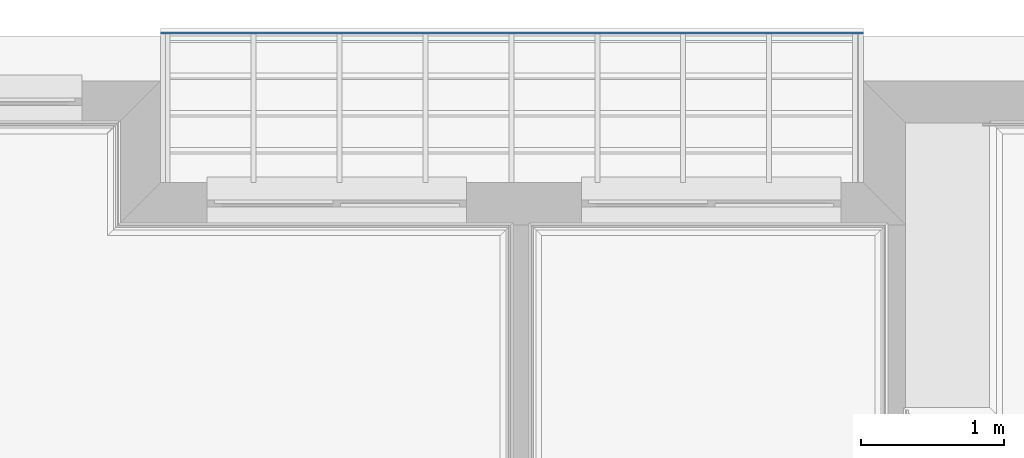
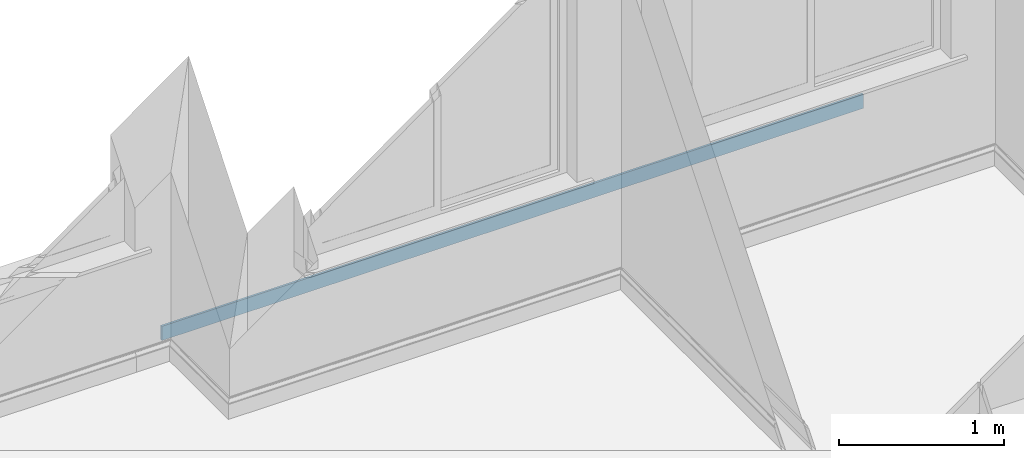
# One storey, part 5 of 18: 1 discrete accessory.
"""IFC2X3 building model written with IfcOpenShell, lengths in millimetres."""

import ifcopenshell
import ifcopenshell.guid

model = None  # the IFC model being written
_history = None  # IfcOwnerHistory: only IFC2X3 demands one
_inside = {}  # id of a spatial element -> (the spatial element, [elements in it])
_under = {}  # id of a project, library or spatial element -> (it, [spatial elements below it])
_declared = {}  # id of a project -> (the project, [libraries it declares])
_typed = {}  # id of a type object -> (the type object, [elements of that type])
_made_of = {}  # id of a material, layer set ... -> (it, [elements and type objects made of it])


def new_model(schema):
    """Start an empty IFC model of exactly this schema.

    Asked for "IFC4X3", IfcOpenShell would pick the latest addendum, in which some entities
    have other attributes; the version numbers below select the first issue.
    IFC2X3 requires an IfcOwnerHistory on every rooted entity: one is made here for all.
    """
    global model, _history
    if schema == "IFC4X3":
        model = ifcopenshell.file(schema_version=(4, 3, 0, 0))
    else:
        model = ifcopenshell.file(schema=schema)
    _inside.clear()
    _under.clear()
    _declared.clear()
    _typed.clear()
    _made_of.clear()
    _history = None
    if model.schema == "IFC2X3":
        org = make("IfcOrganization", Name="unknown")
        user = make(
            "IfcPersonAndOrganization",
            ThePerson=make("IfcPerson", FamilyName="unknown"),
            TheOrganization=org,
        )
        app = make(
            "IfcApplication",
            ApplicationDeveloper=org,
            Version="unknown",
            ApplicationFullName="unknown",
            ApplicationIdentifier="unknown",
        )
        _history = make(
            "IfcOwnerHistory",
            OwningUser=user,
            OwningApplication=app,
            ChangeAction="ADDED",
            CreationDate=0,
        )
    return model


def make(cls, **values):
    """One entity of the class cls with the attributes given. An attribute that is None is left unset."""
    return model.create_entity(
        cls, **{name: value for name, value in values.items() if value is not None}
    )


def entity(cls, *values):
    """Any entity or typed value of the class cls, its attributes in the order of the schema. None: left unset."""
    e = model.create_entity(cls)
    for i, value in enumerate(values):
        if value is not None:
            e[i] = value
    return e


def rooted(cls, **values):
    """An entity with a GlobalId (a new one), such as an element, a storey or a relation."""
    return make(cls, GlobalId=ifcopenshell.guid.new(), OwnerHistory=_history, **values)


def si_unit(unit_type, name, prefix=None):
    """IfcSIUnit, for example si_unit("LENGTHUNIT", "METRE", prefix="MILLI")."""
    return make("IfcSIUnit", UnitType=unit_type, Prefix=prefix, Name=name)


def converted_unit(unit_type, name, factor, base, dimensions=None, offset=None):
    """IfcConversionBasedUnit, such as the inch: factor (a typed value) times the base unit."""
    return make(
        "IfcConversionBasedUnit"
        if offset is None
        else "IfcConversionBasedUnitWithOffset",
        ConversionOffset=offset,
        Dimensions=None
        if dimensions is None
        else entity("IfcDimensionalExponents", *dimensions),
        UnitType=unit_type,
        Name=name,
        ConversionFactor=make(
            "IfcMeasureWithUnit", ValueComponent=factor, UnitComponent=base
        ),
    )


def money_unit(currency):
    """IfcMonetaryUnit."""
    return make("IfcMonetaryUnit", Currency=currency)


def assignment(units):
    """IfcUnitAssignment: the units of a project."""
    return None if units is None else make("IfcUnitAssignment", Units=units)


def point(xyz):
    """IfcCartesianPoint."""
    return None if xyz is None else make("IfcCartesianPoint", Coordinates=xyz)


def direction(xyz):
    """IfcDirection."""
    return None if xyz is None else make("IfcDirection", DirectionRatios=xyz)


def frame(location, z_axis=None, x_axis=None):
    """IfcAxis2Placement3D, a coordinate frame: its origin and axes. An axis left out is left unset."""
    return make(
        "IfcAxis2Placement3D",
        Location=point(location),
        Axis=direction(z_axis),
        RefDirection=direction(x_axis),
    )


def origin_with_axes():
    """The frame at (0, 0, 0) with the z axis (0, 0, 1) and the x axis (1, 0, 0) written out."""
    return frame((0.0, 0.0, 0.0), z_axis=(0.0, 0.0, 1.0), x_axis=(1.0, 0.0, 0.0))


def place(relative_to, where):
    """IfcLocalPlacement: puts the frame where relative to a parent placement (None: the world)."""
    return make(
        "IfcLocalPlacement", PlacementRelTo=relative_to, RelativePlacement=where
    )


def context(
    kind, dimensions, precision=None, world=None, true_north=None, identifier=None
):
    """IfcGeometricRepresentationContext, for example the 3D "Model" context."""
    return make(
        "IfcGeometricRepresentationContext",
        ContextIdentifier=identifier,
        ContextType=kind,
        CoordinateSpaceDimension=dimensions,
        Precision=precision,
        WorldCoordinateSystem=world,
        TrueNorth=true_north,
    )


def subcontext(parent, identifier, kind, view, scale=None):
    """IfcGeometricRepresentationSubContext, for example "Body" below "Model"."""
    return make(
        "IfcGeometricRepresentationSubContext",
        ContextIdentifier=identifier,
        ContextType=kind,
        ParentContext=parent,
        TargetScale=scale,
        TargetView=view,
    )


def project(units=None, contexts=None):
    """IfcProject with its units and contexts."""
    return rooted(
        "IfcProject",
        Name="project",
        RepresentationContexts=contexts,
        UnitsInContext=assignment(units),
    )


def spatial(cls, under=None, at=None, **own):
    """A site, building, storey or space (cls), placed at a placement, below another one or the project."""
    s = rooted(cls, ObjectPlacement=at, **own)
    if under is not None:
        _under.setdefault(under.id(), (under, []))[1].append(s)
    return s


def faces_of(points, faces, orient=None, outer=None):
    """IfcFace entities. A face is a list of loops; a loop is a list of indices into points, from 0.

    orient and outer hold one flag for each loop. By default every Orientation is true, the
    first loop of a face is its IfcFaceOuterBound and the others are IfcFaceBound.
    """
    made = []
    for i, loops in enumerate(faces):
        bounds = []
        for j, loop in enumerate(loops):
            is_outer = j == 0 if outer is None else outer[i][j]
            bounds.append(
                make(
                    "IfcFaceOuterBound" if is_outer else "IfcFaceBound",
                    Bound=make("IfcPolyLoop", Polygon=[points[k] for k in loop]),
                    Orientation=True if orient is None else orient[i][j],
                )
            )
        made.append(make("IfcFace", Bounds=bounds))
    return made


def faceted_brep(points, faces, orient=None, outer=None, voids=None):
    """IfcFacetedBrep: a solid bounded by flat faces; with voids (closed shells), ...WithVoids."""
    shared = [point(p) for p in points]
    hull = make("IfcClosedShell", CfsFaces=faces_of(shared, faces, orient, outer))
    if voids is None:
        return make("IfcFacetedBrep", Outer=hull)
    return make(
        "IfcFacetedBrepWithVoids",
        Outer=hull,
        Voids=[
            make(cls, CfsFaces=faces_of(shared, fs, o, b)) for cls, fs, o, b in voids
        ],
    )


def shape(context_of_items, identifier, shape_type, items):
    """IfcShapeRepresentation: the items that make up one representation, for example the "Body"."""
    return make(
        "IfcShapeRepresentation",
        ContextOfItems=context_of_items,
        RepresentationIdentifier=identifier,
        RepresentationType=shape_type,
        Items=items,
    )


def source(mapping_origin, context_of_items, identifier, shape_type, items):
    """IfcRepresentationMap: a shape defined once, which mapped items show again and again."""
    return make(
        "IfcRepresentationMap",
        MappingOrigin=mapping_origin,
        MappedRepresentation=shape(context_of_items, identifier, shape_type, items),
    )


def transform(
    local_origin,
    x_axis=None,
    y_axis=None,
    z_axis=None,
    scale=None,
    scale2=None,
    scale3=None,
    uniform=True,
):
    """IfcCartesianTransformationOperator3D, or its non-uniform kind. x_axis, y_axis, z_axis: its Axis1, 2, 3."""
    if uniform:
        return make(
            "IfcCartesianTransformationOperator3D",
            Axis1=direction(x_axis),
            Axis2=direction(y_axis),
            LocalOrigin=point(local_origin),
            Scale=scale,
            Axis3=direction(z_axis),
        )
    return make(
        "IfcCartesianTransformationOperator3DnonUniform",
        Axis1=direction(x_axis),
        Axis2=direction(y_axis),
        LocalOrigin=point(local_origin),
        Scale=scale,
        Axis3=direction(z_axis),
        Scale2=scale2,
        Scale3=scale3,
    )


def mapped(mapping_source, mapping_target):
    """IfcMappedItem: shows the shape of a source again, moved by a transform."""
    return make(
        "IfcMappedItem", MappingSource=mapping_source, MappingTarget=mapping_target
    )


def material(Name=None, Category=None):
    """IfcMaterial."""
    return make("IfcMaterial", Name=Name, Category=Category)


def made_of(thing, what):
    """Note that an element or type object is made of a material, layer set ...; save() writes the relation."""
    if what is not None:
        _made_of.setdefault(what.id(), (what, []))[1].append(thing)
    return thing


def type_object(cls, material=None, **own):
    """A type object (cls), such as IfcWallType, which elements share."""
    return made_of(rooted(cls, **own), material)


def element(
    cls,
    number,
    at=None,
    inside=None,
    cuts=None,
    type_object=None,
    material=None,
    context=None,
    identifier="Body",
    shape_type=None,
    held_by="IfcProductDefinitionShape",
    body=None,
    shapes=None,
    **own,
):
    """One element of the class cls, such as IfcWall. Its Tag is "e" and its number.

    at: its placement. inside: the storey or other place that contains it. cuts: it is an
    opening in that element (IfcRelVoidsElement). A single representation is given by context,
    identifier, shape_type and body (its items); several are given by shapes. held_by: the class
    of the entity that holds the representations. save() writes the other relations.
    """
    e = rooted(cls, Tag="e%d" % number, ObjectPlacement=at, **own)
    if body is not None:
        shapes = [shape(context, identifier, shape_type, body)]
    if shapes is not None:
        e.Representation = make(held_by, Representations=shapes)
    if inside is not None:
        _inside.setdefault(inside.id(), (inside, []))[1].append(e)
    if cuts is not None:
        rooted(
            "IfcRelVoidsElement", RelatingBuildingElement=cuts, RelatedOpeningElement=e
        )
    if type_object is not None:
        _typed.setdefault(type_object.id(), (type_object, []))[1].append(e)
    return made_of(e, material)


def aggregate(whole, parts):
    """IfcRelAggregates: a whole, such as a stair, and the parts it consists of."""
    return rooted("IfcRelAggregates", RelatingObject=whole, RelatedObjects=parts)


def save(model, path):
    """Write the relations noted so far, then the file.

    IfcRelAggregates (storeys below a building ...), IfcRelContainedInSpatialStructure (elements
    in a storey), IfcRelDefinesByType, IfcRelAssociatesMaterial and IfcRelDeclares: one each for
    every whole, place, type object, material and project.
    """
    for whole, parts in _under.values():
        aggregate(whole, parts)
    for where, things in _inside.values():
        rooted(
            "IfcRelContainedInSpatialStructure",
            RelatedElements=things,
            RelatingStructure=where,
        )
    for kind, things in _typed.values():
        rooted("IfcRelDefinesByType", RelatedObjects=things, RelatingType=kind)
    for what, things in _made_of.values():
        rooted("IfcRelAssociatesMaterial", RelatedObjects=things, RelatingMaterial=what)
    for by, libraries in _declared.values():
        rooted("IfcRelDeclares", RelatingContext=by, RelatedDefinitions=libraries)
    model.write(path)


model = new_model("IFC2X3")

# Units and contexts
model_context = context("Model", 3, precision=1e-05, world=origin_with_axes(), true_north=direction((0.0, 1.0)))
body_context = subcontext(model_context, "Body", "Model", "MODEL_VIEW")
ifc_project = project(units=[si_unit("LENGTHUNIT", "METRE", prefix="MILLI"), si_unit("AREAUNIT", "SQUARE_METRE"), si_unit("VOLUMEUNIT", "CUBIC_METRE"), converted_unit("PLANEANGLEUNIT", "DEGREE", entity("IfcPlaneAngleMeasure", 0.0174532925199), si_unit("PLANEANGLEUNIT", "RADIAN"), dimensions=[0, 0, 0, 0, 0, 0, 0]), si_unit("SOLIDANGLEUNIT", "STERADIAN"), money_unit("AUD"), si_unit("TIMEUNIT", "SECOND"), si_unit("MASSUNIT", "GRAM"), si_unit("THERMODYNAMICTEMPERATUREUNIT", "DEGREE_CELSIUS"), si_unit("LUMINOUSINTENSITYUNIT", "LUMEN")], contexts=[model_context])

# Site, building, storey
site_placement = place(None, origin_with_axes())
site = spatial("IfcSite", under=ifc_project, at=site_placement, Name="Lot 1. East Hills", CompositionType="ELEMENT")
building_placement = place(site_placement, origin_with_axes())
building = spatial("IfcBuilding", under=site, at=building_placement, Name="Proposed Units 7 & 8", CompositionType="ELEMENT")
storey_placement = place(building_placement, frame((0.0, 0.0, 5859.0), z_axis=(0.0, 0.0, 1.0), x_axis=(1.0, 0.0, 0.0)))
storey = spatial("IfcBuildingStorey", under=building, at=storey_placement, Name="Level 1", CompositionType="ELEMENT", Elevation=5859.0)

# Discrete accessory
ifc_material = material(Name="50 %")
discrete_accessory_type = type_object("IfcDiscreteAccessoryType", Name="Purlin 12")
shared_shape = source(origin_with_axes(), body_context, "Body", "Brep", [
    faceted_brep([(0.0, -7.5, 105.0), (0.0, -7.5, 0.0), (4905.00000067, -7.5, 0.0), (4905.00000067, -7.5, 105.0), (0.0, 7.5, 105.0), (0.0, 7.5, 0.0), (4905.00000067, 7.5, 0.0), (4905.00000067, 7.5, 105.0)], [[[0, 1, 2, 3]], [[0, 4, 5, 1]], [[1, 5, 6, 2]], [[3, 2, 6, 7]], [[4, 0, 3, 7]], [[5, 4, 7, 6]]]),
])
discrete_accessory_placement = place(storey_placement, frame((6975.0, 5596.23573739, -345.931378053), z_axis=(0.0, 0.0, 1.0), x_axis=(1.0, 0.0, 0.0)))
element("IfcDiscreteAccessory", 1, at=discrete_accessory_placement, inside=storey, type_object=discrete_accessory_type, material=ifc_material, Name="ROOF_BAT_29 - Purlin 12 - object -", context=body_context, shape_type="MappedRepresentation", body=[
    mapped(shared_shape, transform((0.0, 0.0, 0.0))),
])

save(model, "model.ifc")
